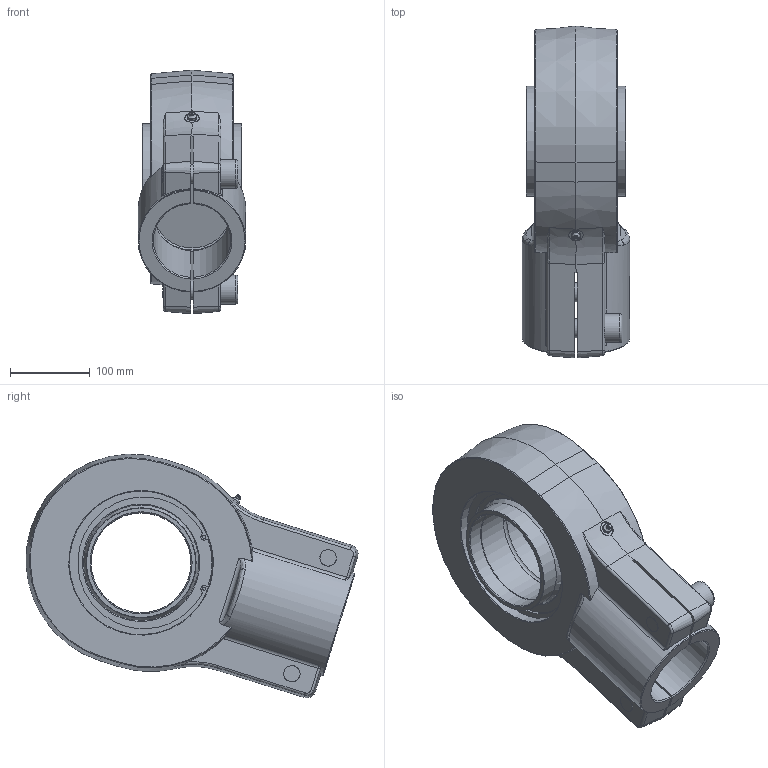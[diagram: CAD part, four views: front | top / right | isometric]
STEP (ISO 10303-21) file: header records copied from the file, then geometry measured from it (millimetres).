
FILE_DESCRIPTION((''),'2;1');
FILE_NAME('H:\WSW\Hydraulikgelenkköpfe\Aktuelle GK Zeichnungen andere Formate\WAPR..CE\WAPR..CE .STP\K-WAPR125CE.stp','2007-12-21T10:44:14',('oliver.joswig'),(''),'Autodesk Inventor 2008','Autodesk Inventor 2008','');
FILE_SCHEMA(('AUTOMOTIVE_DESIGN { 1 0 10303 214 1 1 1 1 }'));
Length unit declared in the file: millimetre
Products named in the file (7): K-WAPR125CE; GEEW_ES_IR mit Nut [Benennung=IR125LO][Breite=125 mm][Kugel=80 mm][Bund_D=69 mm][Freid_b=19,7 mm][Freid_D=63,05 mm][Bohr=62,5 mm][Fase=45 grd][R_rs=1 mm]; GEEW_ES_AR mit Nut [Benennung=AR_GEEW125ES][Kugel_dk=80mm][Breite=70mm][Radius_r1s=1mm][Aussendurchmessser=90mm]; F-WAPR125CE; DIN 472 180 x 4; DIN 71412  A  (Feingewinde) AM10 x 1 keg kurz; DIN EN ISO 4762  (Regelgewinde) M24 x 70
Assembly tree (8 placements, depth 2):
  K-WAPR125CE
    GEEW_ES_IR mit Nut [Benennung=IR125LO][Breite=125 mm][Kugel=80 mm][Bund_D=69 mm][Freid_b=19,7 mm][Freid_D=63,05 mm][Bohr=62,5 mm][Fase=45 grd][R_rs=1 mm]
    GEEW_ES_AR mit Nut [Benennung=AR_GEEW125ES][Kugel_dk=80mm][Breite=70mm][Radius_r1s=1mm][Aussendurchmessser=90mm]
    F-WAPR125CE
    DIN 472 180 x 4  x2
    DIN 71412  A  (Feingewinde) AM10 x 1 keg kurz
    DIN EN ISO 4762  (Regelgewinde) M24 x 70  x2
Bounding box: 135 x 416.25 x 305.23 mm (x, y, z)
Volume: 6172800.5 mm3; surface area: 624386.3 mm2
Topology: 8 solids, 8 shells, 289 faces, 715 edges, 451 vertices
Faces by surface type: plane 115, cylinder 68, cone 42, bspline 39, torus 22, sphere 3
Full cylindrical faces by diameter (mm): 4 x4, 5 x1, 5.774 x2, 10 x1, 10.569 x2, 24 x2, 36 x2, 101 x1, 125 x2, 126.1 x2, 138 x2, 180 x5, 185 x2
Entity records: 10853 total; most frequent: CARTESIAN_POINT 4891, DIRECTION 1160, ORIENTED_EDGE 1156, EDGE_CURVE 578, AXIS2_PLACEMENT_3D 459, VERTEX_POINT 396, EDGE_LOOP 360, FACE_OUTER_BOUND 263
